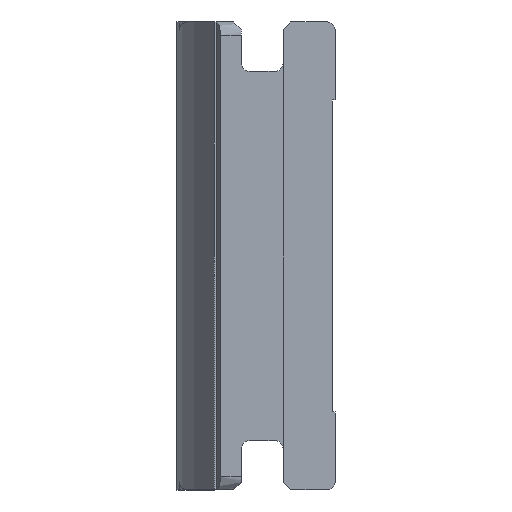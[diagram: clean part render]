
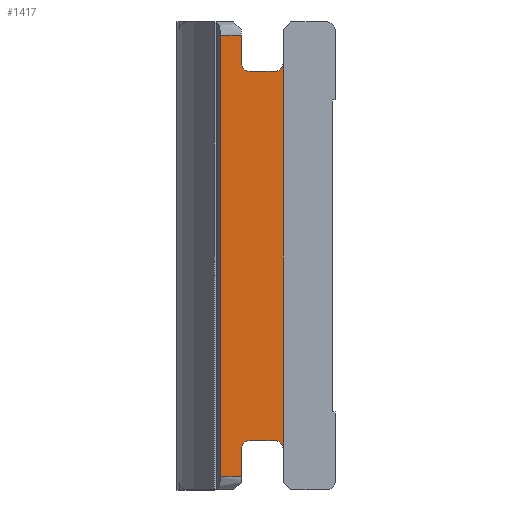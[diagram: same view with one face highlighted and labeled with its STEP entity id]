
A CAD part, left-side view. The second image highlights one B-rep face of the part: STEP entity #1417.
In plain terms, the highlighted planar face has unit normal (-1, 0, 0).
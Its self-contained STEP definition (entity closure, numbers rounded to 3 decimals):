
#17 = CARTESIAN_POINT ( 'NONE',  ( 10., 3.5, 7.4 ) ) ;
#25 = EDGE_CURVE ( 'NONE', #388, #1830, #911, .T. ) ;
#37 = VECTOR ( 'NONE', #335, 1000. ) ;
#89 = ORIENTED_EDGE ( 'NONE', *, *, #1173, .F. ) ;
#91 = CARTESIAN_POINT ( 'NONE',  ( 10., 3.2, -7.1 ) ) ;
#122 = CARTESIAN_POINT ( 'NONE',  ( 10., 2.2, 7.4 ) ) ;
#124 = EDGE_CURVE ( 'NONE', #1718, #716, #1705, .T. ) ;
#140 = VERTEX_POINT ( 'NONE', #1616 ) ;
#166 = AXIS2_PLACEMENT_3D ( 'NONE', #1219, #981, #1708 ) ;
#184 = DIRECTION ( 'NONE',  ( 0., 0., -1. ) ) ;
#221 = PLANE ( 'NONE',  #886 ) ;
#243 = CARTESIAN_POINT ( 'NONE',  ( 10., 4.3, -29.536 ) ) ;
#284 = ORIENTED_EDGE ( 'NONE', *, *, #1023, .F. ) ;
#295 = DIRECTION ( 'NONE',  ( 0., 0., -1. ) ) ;
#315 = EDGE_CURVE ( 'NONE', #140, #716, #1782, .T. ) ;
#322 = CARTESIAN_POINT ( 'NONE',  ( 10., 1.9, -8.5 ) ) ;
#335 = DIRECTION ( 'NONE',  ( 0., 0., -1. ) ) ;
#342 = CARTESIAN_POINT ( 'NONE',  ( 10., 2.2, -7.4 ) ) ;
#344 = EDGE_CURVE ( 'NONE', #1078, #1182, #932, .T. ) ;
#376 = DIRECTION ( 'NONE',  ( -1., 0., 0. ) ) ;
#388 = VERTEX_POINT ( 'NONE', #855 ) ;
#402 = CARTESIAN_POINT ( 'NONE',  ( 10., 1.9, -29.536 ) ) ;
#453 = EDGE_CURVE ( 'NONE', #1830, #1460, #696, .T. ) ;
#534 = DIRECTION ( 'NONE',  ( 0., 1., 0. ) ) ;
#557 = AXIS2_PLACEMENT_3D ( 'NONE', #826, #376, #821 ) ;
#576 = ORIENTED_EDGE ( 'NONE', *, *, #1780, .F. ) ;
#648 = CARTESIAN_POINT ( 'NONE',  ( 10., 3.2, -7.1 ) ) ;
#649 = ORIENTED_EDGE ( 'NONE', *, *, #124, .T. ) ;
#663 = DIRECTION ( 'NONE',  ( 0., -1., 0. ) ) ;
#696 = LINE ( 'NONE', #1267, #857 ) ;
#716 = VERTEX_POINT ( 'NONE', #1827 ) ;
#718 = CARTESIAN_POINT ( 'NONE',  ( 10., 2.2, -7.1 ) ) ;
#740 = VERTEX_POINT ( 'NONE', #718 ) ;
#742 = CIRCLE ( 'NONE', #557, 0.3 ) ;
#744 = CARTESIAN_POINT ( 'NONE',  ( 10., 3.2, 7.1 ) ) ;
#766 = VECTOR ( 'NONE', #1815, 1000. ) ;
#787 = DIRECTION ( 'NONE',  ( 0., 0., -1. ) ) ;
#817 = DIRECTION ( 'NONE',  ( 1., 0., 0. ) ) ;
#821 = DIRECTION ( 'NONE',  ( 0., 0., -1. ) ) ;
#825 = CARTESIAN_POINT ( 'NONE',  ( 10., 4.3, -8.5 ) ) ;
#826 = CARTESIAN_POINT ( 'NONE',  ( 10., 3.2, -7.4 ) ) ;
#855 = CARTESIAN_POINT ( 'NONE',  ( 10., 2.2, 7.1 ) ) ;
#857 = VECTOR ( 'NONE', #295, 1000. ) ;
#868 = ORIENTED_EDGE ( 'NONE', *, *, #25, .F. ) ;
#879 = VERTEX_POINT ( 'NONE', #17 ) ;
#884 = VERTEX_POINT ( 'NONE', #744 ) ;
#886 = AXIS2_PLACEMENT_3D ( 'NONE', #402, #817, #1826 ) ;
#887 = VECTOR ( 'NONE', #534, 1000. ) ;
#894 = ORIENTED_EDGE ( 'NONE', *, *, #315, .F. ) ;
#895 = EDGE_CURVE ( 'NONE', #1078, #879, #1464, .T. ) ;
#897 = DIRECTION ( 'NONE',  ( -1., 0., 0. ) ) ;
#911 = CIRCLE ( 'NONE', #1816, 0.3 ) ;
#932 = LINE ( 'NONE', #1509, #766 ) ;
#939 = CARTESIAN_POINT ( 'NONE',  ( 10., 3.5, 8.5 ) ) ;
#974 = CIRCLE ( 'NONE', #166, 0.3 ) ;
#976 = LINE ( 'NONE', #648, #887 ) ;
#981 = DIRECTION ( 'NONE',  ( -1., 0., 0. ) ) ;
#1022 = CARTESIAN_POINT ( 'NONE',  ( 10., 3.5, 8.7 ) ) ;
#1023 = EDGE_CURVE ( 'NONE', #1460, #740, #1400, .T. ) ;
#1036 = EDGE_LOOP ( 'NONE', ( #1278, #1627, #1832, #649, #894, #89, #1076, #284, #1451, #868, #1467, #576 ) ) ;
#1052 = DIRECTION ( 'NONE',  ( 0., -1., 0. ) ) ;
#1075 = CARTESIAN_POINT ( 'NONE',  ( 10., 3.5, -8.7 ) ) ;
#1076 = ORIENTED_EDGE ( 'NONE', *, *, #1240, .F. ) ;
#1078 = VERTEX_POINT ( 'NONE', #939 ) ;
#1113 = FACE_OUTER_BOUND ( 'NONE', #1036, .T. ) ;
#1146 = EDGE_CURVE ( 'NONE', #1718, #1182, #1639, .T. ) ;
#1173 = EDGE_CURVE ( 'NONE', #1653, #140, #742, .T. ) ;
#1182 = VERTEX_POINT ( 'NONE', #1392 ) ;
#1219 = CARTESIAN_POINT ( 'NONE',  ( 10., 3.2, 7.4 ) ) ;
#1240 = EDGE_CURVE ( 'NONE', #740, #1653, #976, .T. ) ;
#1242 = DIRECTION ( 'NONE',  ( 0., 0., 1. ) ) ;
#1244 = AXIS2_PLACEMENT_3D ( 'NONE', #342, #897, #184 ) ;
#1267 = CARTESIAN_POINT ( 'NONE',  ( 10., 1.9, -29.536 ) ) ;
#1278 = ORIENTED_EDGE ( 'NONE', *, *, #895, .F. ) ;
#1279 = VECTOR ( 'NONE', #663, 1000. ) ;
#1310 = EDGE_CURVE ( 'NONE', #884, #388, #1523, .T. ) ;
#1392 = CARTESIAN_POINT ( 'NONE',  ( 10., 4.3, 8.5 ) ) ;
#1400 = CIRCLE ( 'NONE', #1244, 0.3 ) ;
#1417 = ADVANCED_FACE ( 'NONE', ( #1113 ), #221, .F. ) ;
#1451 = ORIENTED_EDGE ( 'NONE', *, *, #453, .F. ) ;
#1460 = VERTEX_POINT ( 'NONE', #1729 ) ;
#1464 = LINE ( 'NONE', #1022, #37 ) ;
#1467 = ORIENTED_EDGE ( 'NONE', *, *, #1310, .F. ) ;
#1477 = VECTOR ( 'NONE', #787, 1000. ) ;
#1509 = CARTESIAN_POINT ( 'NONE',  ( 10., 1.9, 8.5 ) ) ;
#1523 = LINE ( 'NONE', #1540, #1279 ) ;
#1540 = CARTESIAN_POINT ( 'NONE',  ( 10., 3.2, 7.1 ) ) ;
#1558 = CARTESIAN_POINT ( 'NONE',  ( 10., 1.9, 7.4 ) ) ;
#1573 = VECTOR ( 'NONE', #1052, 1000. ) ;
#1584 = DIRECTION ( 'NONE',  ( -1., 0., 0. ) ) ;
#1616 = CARTESIAN_POINT ( 'NONE',  ( 10., 3.5, -7.4 ) ) ;
#1627 = ORIENTED_EDGE ( 'NONE', *, *, #344, .T. ) ;
#1639 = LINE ( 'NONE', #243, #1700 ) ;
#1653 = VERTEX_POINT ( 'NONE', #91 ) ;
#1700 = VECTOR ( 'NONE', #1242, 1000. ) ;
#1705 = LINE ( 'NONE', #322, #1573 ) ;
#1708 = DIRECTION ( 'NONE',  ( 0., 0., -1. ) ) ;
#1713 = DIRECTION ( 'NONE',  ( 0., 0., -1. ) ) ;
#1718 = VERTEX_POINT ( 'NONE', #825 ) ;
#1729 = CARTESIAN_POINT ( 'NONE',  ( 10., 1.9, -7.4 ) ) ;
#1780 = EDGE_CURVE ( 'NONE', #879, #884, #974, .T. ) ;
#1782 = LINE ( 'NONE', #1075, #1477 ) ;
#1815 = DIRECTION ( 'NONE',  ( 0., 1., 0. ) ) ;
#1816 = AXIS2_PLACEMENT_3D ( 'NONE', #122, #1584, #1713 ) ;
#1826 = DIRECTION ( 'NONE',  ( 0., 0., -1. ) ) ;
#1827 = CARTESIAN_POINT ( 'NONE',  ( 10., 3.5, -8.5 ) ) ;
#1830 = VERTEX_POINT ( 'NONE', #1558 ) ;
#1832 = ORIENTED_EDGE ( 'NONE', *, *, #1146, .F. ) ;
